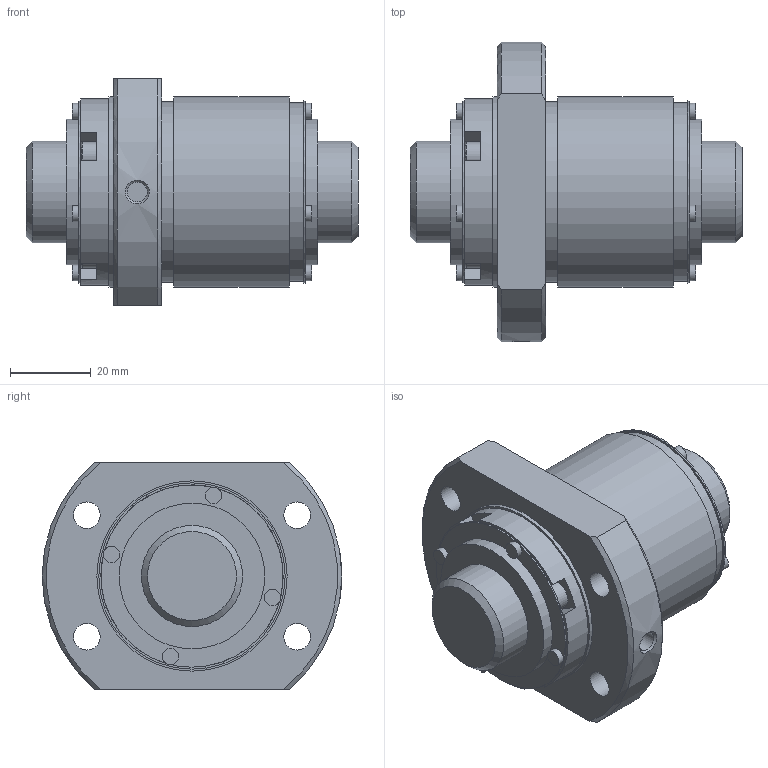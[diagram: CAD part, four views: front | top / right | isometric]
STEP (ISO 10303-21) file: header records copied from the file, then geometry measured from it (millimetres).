
FILE_DESCRIPTION(/* description */ ('STEP AP203'),/* implementation_level */ '2;1');
FILE_NAME(/* name */ 'BLK2525-3.6ZZG1+82LC3_0_1300',/* time_stamp */ '2025-01-16T07:04:48+01:00',/* author */ ('License CC BY-ND 4.0'),/* organization */ ('CADENAS'),/* preprocessor_version */ 'ST-DEVELOPER v19.3',/* originating_system */ 'PARTsolutions',/* authorisation */ ' ');
FILE_SCHEMA (('CONFIG_CONTROL_DESIGN'));
Length unit declared in the file: millimetre
Products named in the file (3): BLK2525-3.6ZZG1+82LC3_0_1300; ZZ0130BLK2525-3.60Shaft; RR0130BLK2525-3.6Nut
Assembly tree (2 placements, depth 2):
  BLK2525-3.6ZZG1+82LC3_0_1300
    ZZ0130BLK2525-3.60Shaft
    RR0130BLK2525-3.6Nut
Bounding box: 82 x 74 x 56 mm (x, y, z)
Volume: 132033.3 mm3; surface area: 31118.8 mm2
Topology: 2 solids, 2 shells, 162 faces, 375 edges, 230 vertices
Faces by surface type: plane 103, cylinder 38, cone 17, torus 4
Full cylindrical faces by diameter (mm): 3 x4, 4 x8, 4.917 x1, 6.6 x4, 7.2 x4, 25 x2, 36 x2, 44 x1, 44.65 x1, 45 x2, 46 x1, 47 x2
Entity records: 4272 total; most frequent: CARTESIAN_POINT 805, DIRECTION 746, ORIENTED_EDGE 602, AXIS2_PLACEMENT_3D 313, EDGE_CURVE 301, FACE_BOUND 238, EDGE_LOOP 234, VERTEX_POINT 209
